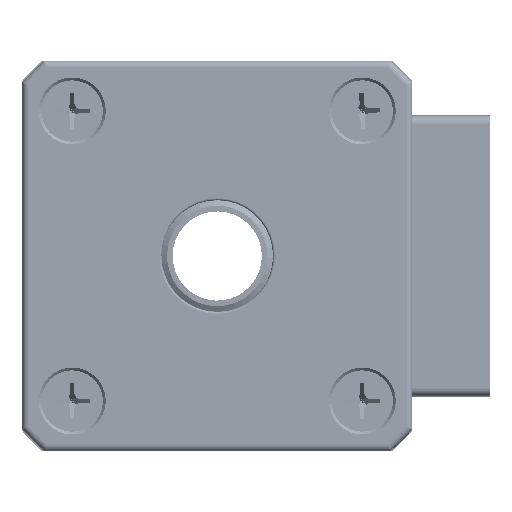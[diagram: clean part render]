
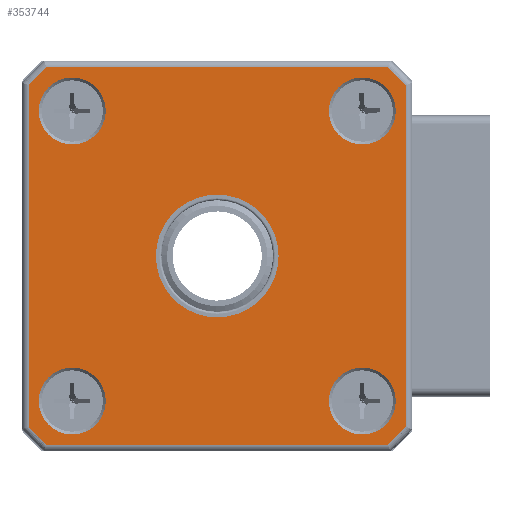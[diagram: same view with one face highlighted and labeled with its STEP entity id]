
A CAD part, left-side view. The second image highlights one B-rep face of the part: STEP entity #353744.
In plain terms, the highlighted planar face has unit normal (-1, 0, 0).
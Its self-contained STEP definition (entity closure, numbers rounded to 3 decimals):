
#10628=FACE_BOUND('',#29403,.T.);
#10629=FACE_BOUND('',#29404,.T.);
#10630=FACE_BOUND('',#29405,.T.);
#10631=FACE_BOUND('',#29406,.T.);
#10632=FACE_BOUND('',#29407,.T.);
#11426=FACE_OUTER_BOUND('',#29402,.T.);
#29402=EDGE_LOOP('',(#221789,#221790,#221791,#221792,#221793,#221794,#221795,
#221796));
#29403=EDGE_LOOP('',(#221797));
#29404=EDGE_LOOP('',(#221798));
#29405=EDGE_LOOP('',(#221799));
#29406=EDGE_LOOP('',(#221800));
#29407=EDGE_LOOP('',(#221801));
#48176=LINE('',#521398,#80084);
#48177=LINE('',#521402,#80085);
#48178=LINE('',#521406,#80086);
#48179=LINE('',#521409,#80087);
#80084=VECTOR('',#411038,30.609);
#80085=VECTOR('',#411041,30.609);
#80086=VECTOR('',#411044,30.609);
#80087=VECTOR('',#411047,30.609);
#111992=CIRCLE('',#371808,22.8);
#111993=CIRCLE('',#371809,22.8);
#111994=CIRCLE('',#371810,22.8);
#111995=CIRCLE('',#371811,22.8);
#111996=CIRCLE('',#371812,5.5);
#111997=CIRCLE('',#371813,3.);
#111998=CIRCLE('',#371814,3.);
#111999=CIRCLE('',#371815,3.);
#112000=CIRCLE('',#371816,3.);
#133135=VERTEX_POINT('',#521394);
#133136=VERTEX_POINT('',#521395);
#133137=VERTEX_POINT('',#521397);
#133138=VERTEX_POINT('',#521399);
#133139=VERTEX_POINT('',#521401);
#133140=VERTEX_POINT('',#521403);
#133141=VERTEX_POINT('',#521405);
#133142=VERTEX_POINT('',#521407);
#133143=VERTEX_POINT('',#521410);
#133144=VERTEX_POINT('',#521412);
#133145=VERTEX_POINT('',#521414);
#133146=VERTEX_POINT('',#521416);
#133147=VERTEX_POINT('',#521418);
#168608=EDGE_CURVE('',#133135,#133136,#111992,.T.);
#168609=EDGE_CURVE('',#133136,#133137,#48176,.T.);
#168610=EDGE_CURVE('',#133137,#133138,#111993,.T.);
#168611=EDGE_CURVE('',#133138,#133139,#48177,.T.);
#168612=EDGE_CURVE('',#133139,#133140,#111994,.T.);
#168613=EDGE_CURVE('',#133140,#133141,#48178,.T.);
#168614=EDGE_CURVE('',#133141,#133142,#111995,.T.);
#168615=EDGE_CURVE('',#133142,#133135,#48179,.T.);
#168616=EDGE_CURVE('',#133143,#133143,#111996,.T.);
#168617=EDGE_CURVE('',#133144,#133144,#111997,.T.);
#168618=EDGE_CURVE('',#133145,#133145,#111998,.T.);
#168619=EDGE_CURVE('',#133146,#133146,#111999,.T.);
#168620=EDGE_CURVE('',#133147,#133147,#112000,.T.);
#221789=ORIENTED_EDGE('',*,*,#168608,.T.);
#221790=ORIENTED_EDGE('',*,*,#168609,.T.);
#221791=ORIENTED_EDGE('',*,*,#168610,.T.);
#221792=ORIENTED_EDGE('',*,*,#168611,.T.);
#221793=ORIENTED_EDGE('',*,*,#168612,.T.);
#221794=ORIENTED_EDGE('',*,*,#168613,.T.);
#221795=ORIENTED_EDGE('',*,*,#168614,.T.);
#221796=ORIENTED_EDGE('',*,*,#168615,.T.);
#221797=ORIENTED_EDGE('',*,*,#168616,.T.);
#221798=ORIENTED_EDGE('',*,*,#168617,.F.);
#221799=ORIENTED_EDGE('',*,*,#168618,.F.);
#221800=ORIENTED_EDGE('',*,*,#168619,.F.);
#221801=ORIENTED_EDGE('',*,*,#168620,.F.);
#328128=PLANE('',#371807);
#353744=ADVANCED_FACE('',(#11426,#10628,#10629,#10630,#10631,#10632),#328128,
 .F.);
#371807=AXIS2_PLACEMENT_3D('',#521393,#411034,#411035);
#371808=AXIS2_PLACEMENT_3D('',#521396,#411036,#411037);
#371809=AXIS2_PLACEMENT_3D('',#521400,#411039,#411040);
#371810=AXIS2_PLACEMENT_3D('',#521404,#411042,#411043);
#371811=AXIS2_PLACEMENT_3D('',#521408,#411045,#411046);
#371812=AXIS2_PLACEMENT_3D('',#521411,#411048,#411049);
#371813=AXIS2_PLACEMENT_3D('',#521413,#411050,#411051);
#371814=AXIS2_PLACEMENT_3D('',#521415,#411052,#411053);
#371815=AXIS2_PLACEMENT_3D('',#521417,#411054,#411055);
#371816=AXIS2_PLACEMENT_3D('',#521419,#411056,#411057);
#411034=DIRECTION('center_axis',(1.,0.,0.));
#411035=DIRECTION('ref_axis',(0.,0.,-1.));
#411036=DIRECTION('center_axis',(-1.,0.,0.));
#411037=DIRECTION('ref_axis',(0.,0.741,-0.671));
#411038=DIRECTION('',(0.,-1.,0.));
#411039=DIRECTION('center_axis',(-1.,0.,0.));
#411040=DIRECTION('ref_axis',(0.,-0.671,-0.741));
#411041=DIRECTION('',(0.,0.,1.));
#411042=DIRECTION('center_axis',(-1.,0.,0.));
#411043=DIRECTION('ref_axis',(0.,-0.741,0.671));
#411044=DIRECTION('',(0.,1.,0.));
#411045=DIRECTION('center_axis',(-1.,0.,0.));
#411046=DIRECTION('ref_axis',(0.,0.671,0.741));
#411047=DIRECTION('',(0.,0.,-1.));
#411048=DIRECTION('center_axis',(1.,0.,0.));
#411049=DIRECTION('ref_axis',(0.,0.,-1.));
#411050=DIRECTION('center_axis',(-1.,0.,0.));
#411051=DIRECTION('ref_axis',(0.,-0.707,0.707));
#411052=DIRECTION('center_axis',(-1.,0.,0.));
#411053=DIRECTION('ref_axis',(0.,-0.707,-0.707));
#411054=DIRECTION('center_axis',(-1.,0.,0.));
#411055=DIRECTION('ref_axis',(0.,0.707,-0.707));
#411056=DIRECTION('center_axis',(-1.,0.,0.));
#411057=DIRECTION('ref_axis',(0.,0.707,0.707));
#521393=CARTESIAN_POINT('Origin',(-24.317,17.5,-23.5));
#521394=CARTESIAN_POINT('',(-24.317,34.4,-38.805));
#521395=CARTESIAN_POINT('',(-24.317,32.805,-40.4));
#521396=CARTESIAN_POINT('Origin',(-24.317,17.5,-23.5));
#521397=CARTESIAN_POINT('',(-24.317,2.195,-40.4));
#521398=CARTESIAN_POINT('',(-24.317,32.805,-40.4));
#521399=CARTESIAN_POINT('',(-24.317,0.6,-38.805));
#521400=CARTESIAN_POINT('Origin',(-24.317,17.5,-23.5));
#521401=CARTESIAN_POINT('',(-24.317,0.6,-8.195));
#521402=CARTESIAN_POINT('',(-24.317,0.6,-38.805));
#521403=CARTESIAN_POINT('',(-24.317,2.195,-6.6));
#521404=CARTESIAN_POINT('Origin',(-24.317,17.5,-23.5));
#521405=CARTESIAN_POINT('',(-24.317,32.805,-6.6));
#521406=CARTESIAN_POINT('',(-24.317,2.195,-6.6));
#521407=CARTESIAN_POINT('',(-24.317,34.4,-8.195));
#521408=CARTESIAN_POINT('Origin',(-24.317,17.5,-23.5));
#521409=CARTESIAN_POINT('',(-24.317,34.4,-8.195));
#521410=CARTESIAN_POINT('',(-24.317,17.5,-18.));
#521411=CARTESIAN_POINT('Origin',(-24.317,17.5,-23.5));
#521412=CARTESIAN_POINT('',(-24.317,28.379,-34.379));
#521413=CARTESIAN_POINT('Origin',(-24.317,30.5,-36.5));
#521414=CARTESIAN_POINT('',(-24.317,28.379,-12.621));
#521415=CARTESIAN_POINT('Origin',(-24.317,30.5,-10.5));
#521416=CARTESIAN_POINT('',(-24.317,6.621,-12.621));
#521417=CARTESIAN_POINT('Origin',(-24.317,4.5,-10.5));
#521418=CARTESIAN_POINT('',(-24.317,6.621,-34.379));
#521419=CARTESIAN_POINT('Origin',(-24.317,4.5,-36.5));
